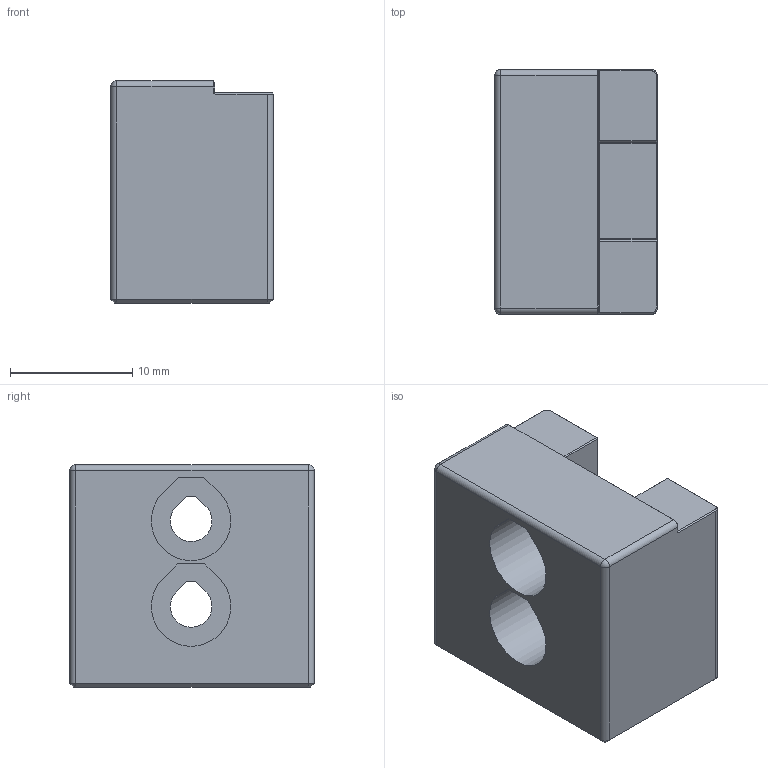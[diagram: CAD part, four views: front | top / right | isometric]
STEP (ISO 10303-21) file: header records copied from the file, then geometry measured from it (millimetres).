
FILE_DESCRIPTION(/* description */ (''),/* implementation_level */ '2;1');
FILE_NAME(/* name */ '55042 - Gripper Fingers.step',/* time_stamp */ '2025-12-08T14:02:49-06:00',/* author */ (''),/* organization */ (''),/* preprocessor_version */ 'ST-DEVELOPER v20.1',/* originating_system */ 'Autodesk Translation Framework v14.21.0.0',/* authorisation */ '');
FILE_SCHEMA (('AUTOMOTIVE_DESIGN { 1 0 10303 214 3 1 1 }'));
Length unit declared in the file: millimetre
Products named in the file (1): TOKEN GRIPPER FINGERS Copy
Bounding box: 13.3 x 20 x 18.18 mm (x, y, z)
Volume: 3431.4 mm3; surface area: 2385.1 mm2
Topology: 1 solids, 1 shells, 88 faces, 202 edges, 118 vertices
Faces by surface type: plane 44, cylinder 20, cone 16, bspline 4, sphere 4
Full cylindrical faces by diameter (mm): 4.1 x2
Entity records: 2582 total; most frequent: CARTESIAN_POINT 563, DIRECTION 412, ORIENTED_EDGE 400, EDGE_CURVE 200, LINE 142, VECTOR 142, AXIS2_PLACEMENT_3D 135, VERTEX_POINT 118
